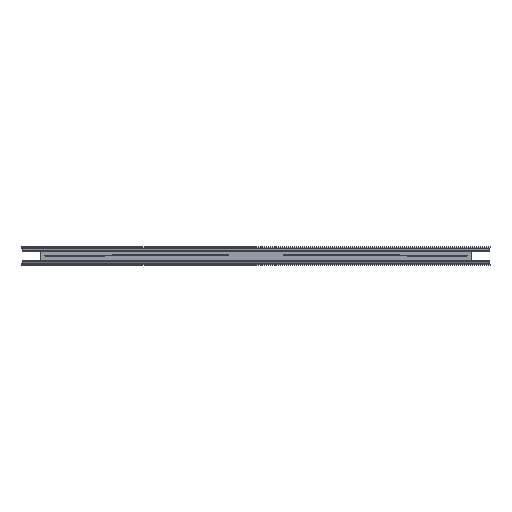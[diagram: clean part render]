
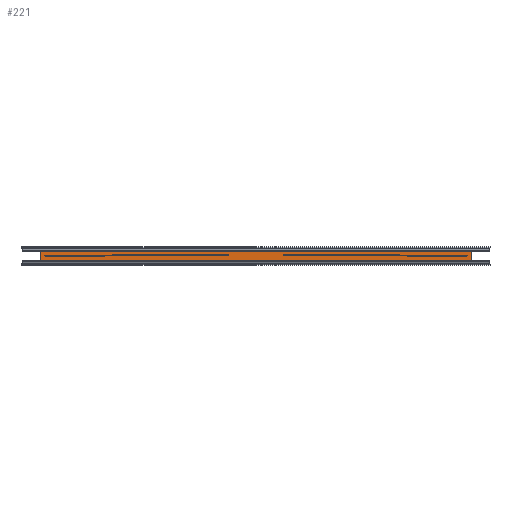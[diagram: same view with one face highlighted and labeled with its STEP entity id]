
A CAD part, top view. The second image highlights one B-rep face of the part: STEP entity #221.
In plain terms, the highlighted planar face has unit normal (0, 0, 1).
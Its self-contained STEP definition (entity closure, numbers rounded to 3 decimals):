
#221=ADVANCED_FACE('',(#303),#1201,.T.);
#303=FACE_OUTER_BOUND('',#385,.T.);
#385=EDGE_LOOP('',(#555,#556,#557,#558));
#555=ORIENTED_EDGE('',*,*,#843,.T.);
#556=ORIENTED_EDGE('',*,*,#844,.T.);
#557=ORIENTED_EDGE('',*,*,#845,.F.);
#558=ORIENTED_EDGE('',*,*,#846,.F.);
#843=EDGE_CURVE('',#1113,#1114,#1009,.T.);
#844=EDGE_CURVE('',#1114,#1115,#1010,.T.);
#845=EDGE_CURVE('',#1116,#1115,#1011,.T.);
#846=EDGE_CURVE('',#1113,#1116,#1012,.T.);
#1009=B_SPLINE_CURVE_WITH_KNOTS('',1,(#2073,#2074),.UNSPECIFIED.,.F.,.F.,
(2,2),(-137.128,-116.234),.UNSPECIFIED.);
#1010=B_SPLINE_CURVE_WITH_KNOTS('',1,(#2075,#2076),.UNSPECIFIED.,.F.,.F.,
(2,2),(0.,1104.),.UNSPECIFIED.);
#1011=B_SPLINE_CURVE_WITH_KNOTS('',1,(#2077,#2078),.UNSPECIFIED.,.F.,.F.,
(2,2),(-137.128,-116.234),.UNSPECIFIED.);
#1012=B_SPLINE_CURVE_WITH_KNOTS('',1,(#2079,#2080),.UNSPECIFIED.,.F.,.F.,
(2,2),(0.,1104.),.UNSPECIFIED.);
#1113=VERTEX_POINT('',#2065);
#1114=VERTEX_POINT('',#2066);
#1115=VERTEX_POINT('',#2067);
#1116=VERTEX_POINT('',#2068);
#1201=PLANE('',#1337);
#1337=AXIS2_PLACEMENT_3D('',#2059,#1464,$);
#1464=DIRECTION('',(0.,0.,1.));
#2059=CARTESIAN_POINT('',(552.,-10.447,0.));
#2065=CARTESIAN_POINT('',(552.,-10.447,0.));
#2066=CARTESIAN_POINT('',(552.,10.447,0.));
#2067=CARTESIAN_POINT('',(-552.,10.447,0.));
#2068=CARTESIAN_POINT('',(-552.,-10.447,0.));
#2073=CARTESIAN_POINT('',(552.,-10.447,0.));
#2074=CARTESIAN_POINT('',(552.,10.447,0.));
#2075=CARTESIAN_POINT('',(552.,10.447,0.));
#2076=CARTESIAN_POINT('',(-552.,10.447,0.));
#2077=CARTESIAN_POINT('',(-552.,-10.447,0.));
#2078=CARTESIAN_POINT('',(-552.,10.447,0.));
#2079=CARTESIAN_POINT('',(552.,-10.447,0.));
#2080=CARTESIAN_POINT('',(-552.,-10.447,0.));
